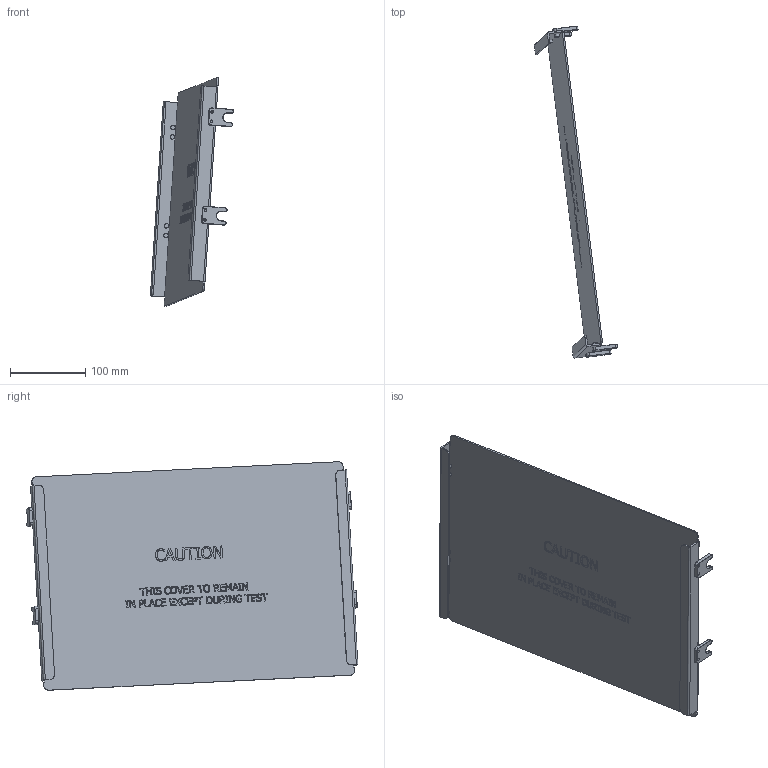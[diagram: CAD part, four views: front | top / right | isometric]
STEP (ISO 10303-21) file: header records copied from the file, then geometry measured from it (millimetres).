
FILE_DESCRIPTION((''),'2;1');
FILE_NAME('C:\old_Drawings\shrinkwrapped website .stp files\757P002-01-STP.stp','2011-08-01T12:08:56',('GaryRobinson'),(''),'Autodesk Inventor 2011','Autodesk Inventor 2011','');
FILE_SCHEMA(('CONFIG_CONTROL_DESIGN'));
Length unit declared in the file: inch
Products named in the file (1): 757P002-01-STP
Bounding box: 110.29 x 439.74 x 302.98 mm (x, y, z)
Surface area: 282373 mm2 (no closed solid volume)
Topology: 0 solids, 13 shells, 917 faces, 2371 edges, 1546 vertices
Faces by surface type: plane 580, bspline 213, cone 64, cylinder 60
Full cylindrical faces by diameter (mm): 3.505 x8, 5.74 x8
Entity records: 29562 total; most frequent: CARTESIAN_POINT 7676, ORIENTED_EDGE 4694, DIRECTION 3483, EDGE_CURVE 2347, VECTOR 1705, LINE 1705, VERTEX_POINT 1546, EDGE_LOOP 1007
